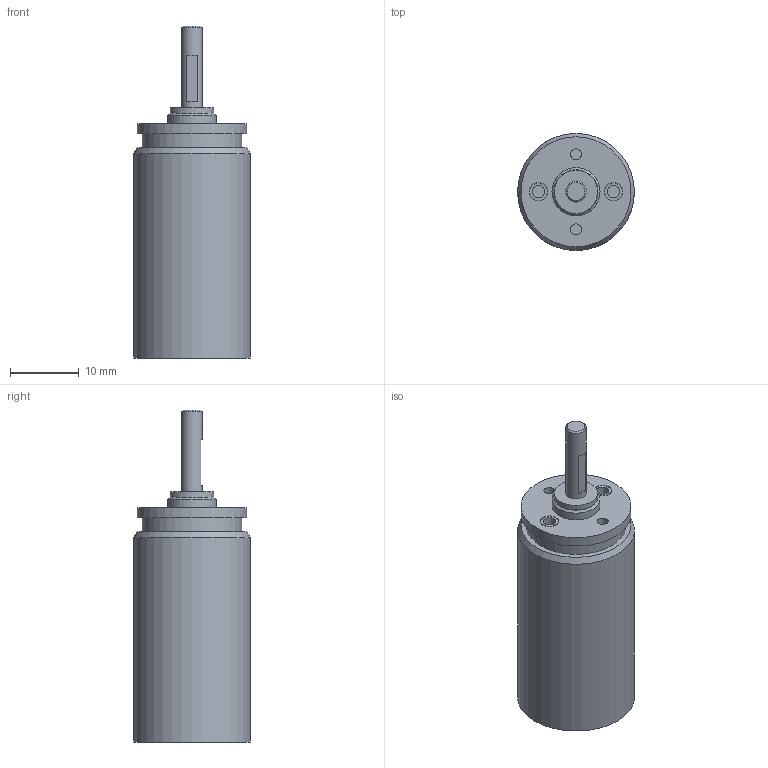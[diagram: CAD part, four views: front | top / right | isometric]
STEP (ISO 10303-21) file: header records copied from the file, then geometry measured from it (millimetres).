
FILE_DESCRIPTION(/* description */ (''),/* implementation_level */ '2;1');
FILE_NAME(/* name */ '16-8_5.stp',/* time_stamp */ '2016-08-25T11:51:31+02:00',/* author */ ('DR. FRITZ FAULHABER GmbH & Co. KG'),/* organization */ ('DR. FRITZ FAULHABER GmbH & Co. KG'),/* preprocessor_version */ 'ST-DEVELOPER v16',/* originating_system */ 'SIEMENS PLM Software NX 10.0',/* authorisation */ '');
FILE_SCHEMA (('AUTOMOTIVE_DESIGN { 1 0 10303 214 3 1 1 1 }'));
Length unit declared in the file: millimetre
Products named in the file (1): H00000460_A
Bounding box: 17 x 17 x 48.3 mm (x, y, z)
Volume: 5051.1 mm3; surface area: 3226.1 mm2
Topology: 1 solids, 1 shells, 41 faces, 65 edges, 43 vertices
Faces by surface type: plane 21, cylinder 17, cone 3
Full cylindrical faces by diameter (mm): 1.6 x2, 1.8 x2, 2.48 x1, 2.584 x2, 2.684 x2, 3 x1, 6 x1, 6.3 x1, 7 x1, 14.5 x1, 16 x2, 17 x1
Entity records: 856 total; most frequent: DIRECTION 166, CARTESIAN_POINT 126, ORIENTED_EDGE 86, AXIS2_PLACEMENT_3D 81, EDGE_LOOP 78, FACE_BOUND 69, EDGE_CURVE 43, ADVANCED_FACE 41
